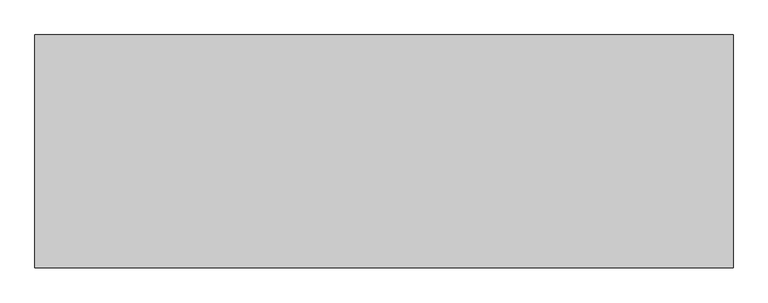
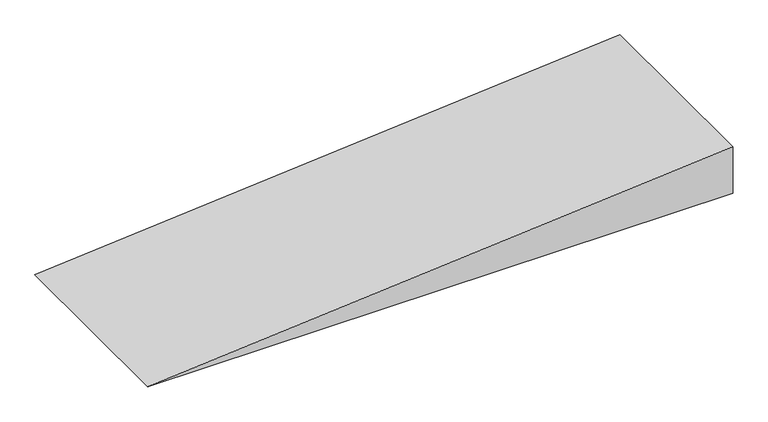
"""IFC4 building model written with IfcOpenShell, lengths in millimetres: ramp geometry, 坡道 1."""

from ifc_helpers import new_model, si_unit, frame, origin, place, context, project, spatial, polyline, outline, extrude, source, transform, mapped, element, save


def ramp_d582d0d9(model_context):
    return source(origin(), model_context, "Body", "SweptSolid", [
        extrude(outline(polyline([(0.0, 11754.6672152), (-450.0, 6354.6672152), (-450.0, 11754.6672152), (0.0, 11754.6672152)])), frame((0.0, -6903.3904183, 0.0), z_axis=(0.0, 1.0, 0.0), x_axis=(0.0, 0.0, 1.0)), (0.0, 0.0, 1.0), 1800.0),
    ])


if __name__ == "__main__":
    model = new_model("IFC4")
    model_context = context("Model", 3, world=origin())
    ifc_project = project(units=[si_unit("LENGTHUNIT", "METRE", prefix="MILLI")], contexts=[model_context])
    site = spatial("IfcSite", under=ifc_project)
    building = spatial("IfcBuilding", under=site)
    placement = place(None, origin())
    ramp_shape = ramp_d582d0d9(model_context)
    element("IfcRamp", 1, ObjectType="坡道 1", at=placement, inside=building, context=model_context, shape_type="MappedRepresentation", body=[
        mapped(ramp_shape, transform((0.0, 0.0, 0.0), x_axis=(1.0, 0.0, 0.0), y_axis=(0.0, 1.0, 0.0), z_axis=(0.0, 0.0, 1.0))),
    ])
    save(model, "model.ifc")
